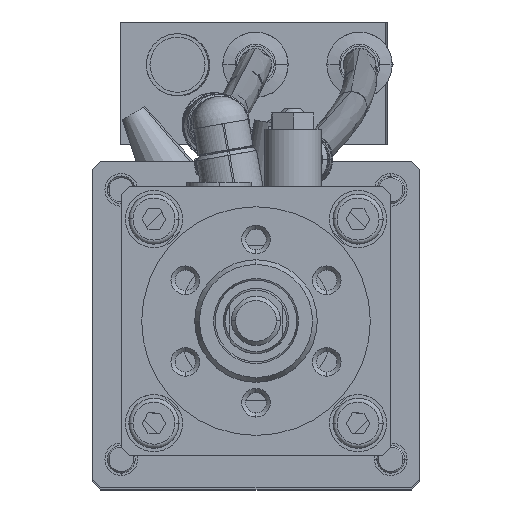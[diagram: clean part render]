
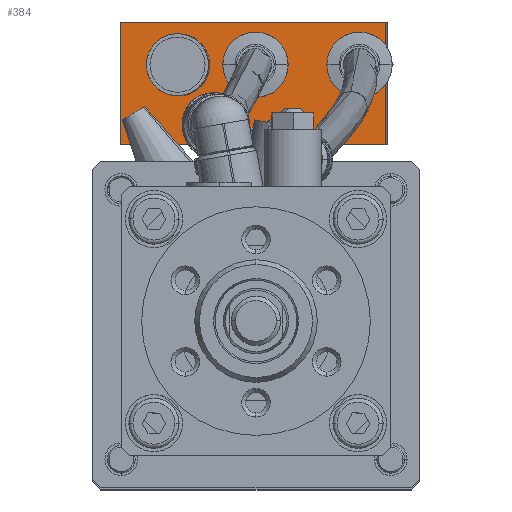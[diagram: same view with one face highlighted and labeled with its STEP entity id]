
A CAD part, top view. The second image highlights one B-rep face of the part: STEP entity #384.
In plain terms, the highlighted planar face has unit normal (-0.012, 0, 1).
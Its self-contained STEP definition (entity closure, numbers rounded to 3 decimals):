
#187 = EDGE_CURVE ( 'NONE', #9584, #6163, #6285, .T. ) ;
#300 = AXIS2_PLACEMENT_3D ( 'NONE', #4585, #10034, #3160 ) ;
#384 = ADVANCED_FACE ( 'NONE', ( #13266, #15662, #11825, #10562 ), #17188, .T. ) ;
#437 = CARTESIAN_POINT ( 'NONE',  ( -18.902, 64., -75.22 ) ) ;
#447 = EDGE_CURVE ( 'NONE', #499, #2983, #5441, .T. ) ;
#499 = VERTEX_POINT ( 'NONE', #17626 ) ;
#644 = ORIENTED_EDGE ( 'NONE', *, *, #14287, .F. ) ;
#682 = DIRECTION ( 'NONE',  ( -1., 0., -0.012 ) ) ;
#1007 = DIRECTION ( 'NONE',  ( -1., 0., -0.012 ) ) ;
#1227 = VECTOR ( 'NONE', #4776, 1000. ) ;
#1561 = CARTESIAN_POINT ( 'NONE',  ( 31.702, 74.5, -74.619 ) ) ;
#1589 = CARTESIAN_POINT ( 'NONE',  ( 30.595, 64., -74.632 ) ) ;
#1619 = CARTESIAN_POINT ( 'NONE',  ( -33.293, 44.5, -75.391 ) ) ;
#1978 = CIRCLE ( 'NONE', #3401, 6. ) ;
#2139 = CARTESIAN_POINT ( 'NONE',  ( -33.293, 44.5, -75.391 ) ) ;
#2350 = EDGE_CURVE ( 'NONE', #5278, #2499, #15886, .T. ) ;
#2499 = VERTEX_POINT ( 'NONE', #1619 ) ;
#2757 = CARTESIAN_POINT ( 'NONE',  ( 0.097, 64., -74.994 ) ) ;
#2816 = CARTESIAN_POINT ( 'NONE',  ( -18.902, 58., -75.22 ) ) ;
#2838 = AXIS2_PLACEMENT_3D ( 'NONE', #14261, #11232, #682 ) ;
#2886 = EDGE_CURVE ( 'NONE', #3086, #5278, #10591, .T. ) ;
#2983 = VERTEX_POINT ( 'NONE', #2816 ) ;
#3086 = VERTEX_POINT ( 'NONE', #1561 ) ;
#3160 = DIRECTION ( 'NONE',  ( -1., 0., -0.012 ) ) ;
#3265 = ORIENTED_EDGE ( 'NONE', *, *, #12737, .F. ) ;
#3401 = AXIS2_PLACEMENT_3D ( 'NONE', #437, #4452, #15706 ) ;
#3534 = CARTESIAN_POINT ( 'NONE',  ( 31.702, 74.5, -74.619 ) ) ;
#3596 = DIRECTION ( 'NONE',  ( -0.012, 0., 1. ) ) ;
#3685 = VECTOR ( 'NONE', #13642, 1000. ) ;
#3736 = AXIS2_PLACEMENT_3D ( 'NONE', #13040, #12692, #6224 ) ;
#3776 = CARTESIAN_POINT ( 'NONE',  ( -14.734, 41.376, -75.17 ) ) ;
#4452 = DIRECTION ( 'NONE',  ( -0.012, 0., 1. ) ) ;
#4585 = CARTESIAN_POINT ( 'NONE',  ( 0.097, 64., -74.994 ) ) ;
#4705 = ORIENTED_EDGE ( 'NONE', *, *, #6018, .F. ) ;
#4752 = DIRECTION ( 'NONE',  ( -0.012, 0., 1. ) ) ;
#4776 = DIRECTION ( 'NONE',  ( -1., 0., -0.012 ) ) ;
#5195 = EDGE_CURVE ( 'NONE', #11126, #3086, #10791, .T. ) ;
#5246 = CARTESIAN_POINT ( 'NONE',  ( -33.293, 74.5, -75.391 ) ) ;
#5278 = VERTEX_POINT ( 'NONE', #5246 ) ;
#5441 = CIRCLE ( 'NONE', #10584, 6. ) ;
#6018 = EDGE_CURVE ( 'NONE', #6163, #9584, #12493, .T. ) ;
#6163 = VERTEX_POINT ( 'NONE', #9880 ) ;
#6224 = DIRECTION ( 'NONE',  ( -1., 0., -0.012 ) ) ;
#6285 = CIRCLE ( 'NONE', #300, 5. ) ;
#6611 = ORIENTED_EDGE ( 'NONE', *, *, #11546, .T. ) ;
#7578 = DIRECTION ( 'NONE',  ( 0., -1., 0. ) ) ;
#7627 = VERTEX_POINT ( 'NONE', #1589 ) ;
#7704 = DIRECTION ( 'NONE',  ( 0., 1., 0. ) ) ;
#8043 = ORIENTED_EDGE ( 'NONE', *, *, #2350, .T. ) ;
#8361 = LINE ( 'NONE', #10786, #3685 ) ;
#8953 = CARTESIAN_POINT ( 'NONE',  ( 5.097, 64., -74.935 ) ) ;
#9056 = VERTEX_POINT ( 'NONE', #16491 ) ;
#9448 = DIRECTION ( 'NONE',  ( -1., 0., -0.012 ) ) ;
#9532 = DIRECTION ( 'NONE',  ( 0., 1., 0. ) ) ;
#9584 = VERTEX_POINT ( 'NONE', #8953 ) ;
#9880 = CARTESIAN_POINT ( 'NONE',  ( -4.903, 64., -75.053 ) ) ;
#10034 = DIRECTION ( 'NONE',  ( -0.012, 0., 1. ) ) ;
#10526 = CIRCLE ( 'NONE', #2838, 5. ) ;
#10562 = FACE_BOUND ( 'NONE', #12339, .T. ) ;
#10584 = AXIS2_PLACEMENT_3D ( 'NONE', #12993, #3596, #7704 ) ;
#10591 = LINE ( 'NONE', #3534, #1227 ) ;
#10786 = CARTESIAN_POINT ( 'NONE',  ( 31.702, 44.5, -74.619 ) ) ;
#10791 = LINE ( 'NONE', #13227, #17653 ) ;
#11126 = VERTEX_POINT ( 'NONE', #12231 ) ;
#11143 = DIRECTION ( 'NONE',  ( -0.012, 0., 1. ) ) ;
#11229 = EDGE_CURVE ( 'NONE', #2983, #499, #1978, .T. ) ;
#11232 = DIRECTION ( 'NONE',  ( -0.012, 0., 1. ) ) ;
#11504 = EDGE_LOOP ( 'NONE', ( #14271, #4705 ) ) ;
#11546 = EDGE_CURVE ( 'NONE', #2499, #11126, #8361, .T. ) ;
#11619 = AXIS2_PLACEMENT_3D ( 'NONE', #2757, #11143, #9448 ) ;
#11825 = FACE_OUTER_BOUND ( 'NONE', #17206, .T. ) ;
#12231 = CARTESIAN_POINT ( 'NONE',  ( 31.702, 44.5, -74.619 ) ) ;
#12296 = AXIS2_PLACEMENT_3D ( 'NONE', #3776, #4752, #1007 ) ;
#12339 = EDGE_LOOP ( 'NONE', ( #17355, #16271 ) ) ;
#12493 = CIRCLE ( 'NONE', #11619, 5. ) ;
#12692 = DIRECTION ( 'NONE',  ( -0.012, 0., 1. ) ) ;
#12737 = EDGE_CURVE ( 'NONE', #7627, #9056, #10526, .T. ) ;
#12993 = CARTESIAN_POINT ( 'NONE',  ( -18.902, 64., -75.22 ) ) ;
#13040 = CARTESIAN_POINT ( 'NONE',  ( 25.595, 64., -74.691 ) ) ;
#13227 = CARTESIAN_POINT ( 'NONE',  ( 31.702, 44.5, -74.619 ) ) ;
#13266 = FACE_BOUND ( 'NONE', #17176, .T. ) ;
#13368 = ORIENTED_EDGE ( 'NONE', *, *, #2886, .T. ) ;
#13642 = DIRECTION ( 'NONE',  ( 1., 0., 0.012 ) ) ;
#14017 = CIRCLE ( 'NONE', #3736, 5. ) ;
#14040 = VECTOR ( 'NONE', #7578, 1000. ) ;
#14261 = CARTESIAN_POINT ( 'NONE',  ( 25.595, 64., -74.691 ) ) ;
#14271 = ORIENTED_EDGE ( 'NONE', *, *, #187, .F. ) ;
#14287 = EDGE_CURVE ( 'NONE', #9056, #7627, #14017, .T. ) ;
#15662 = FACE_BOUND ( 'NONE', #11504, .T. ) ;
#15706 = DIRECTION ( 'NONE',  ( 0., 1., 0. ) ) ;
#15886 = LINE ( 'NONE', #2139, #14040 ) ;
#16271 = ORIENTED_EDGE ( 'NONE', *, *, #447, .F. ) ;
#16491 = CARTESIAN_POINT ( 'NONE',  ( 20.596, 64., -74.751 ) ) ;
#17175 = ORIENTED_EDGE ( 'NONE', *, *, #5195, .T. ) ;
#17176 = EDGE_LOOP ( 'NONE', ( #3265, #644 ) ) ;
#17188 = PLANE ( 'NONE',  #12296 ) ;
#17206 = EDGE_LOOP ( 'NONE', ( #17175, #13368, #8043, #6611 ) ) ;
#17355 = ORIENTED_EDGE ( 'NONE', *, *, #11229, .F. ) ;
#17626 = CARTESIAN_POINT ( 'NONE',  ( -18.902, 70., -75.22 ) ) ;
#17653 = VECTOR ( 'NONE', #9532, 1000. ) ;
